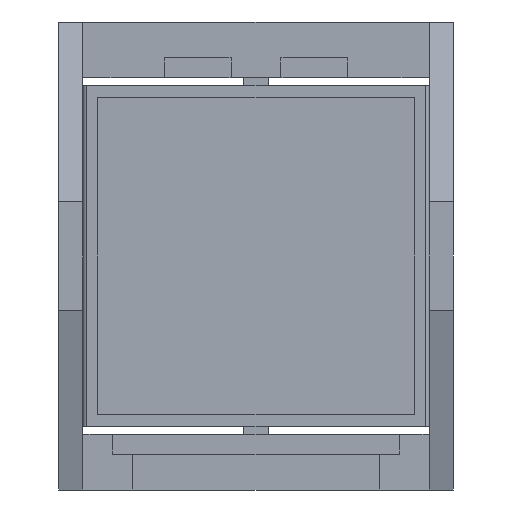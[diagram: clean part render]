
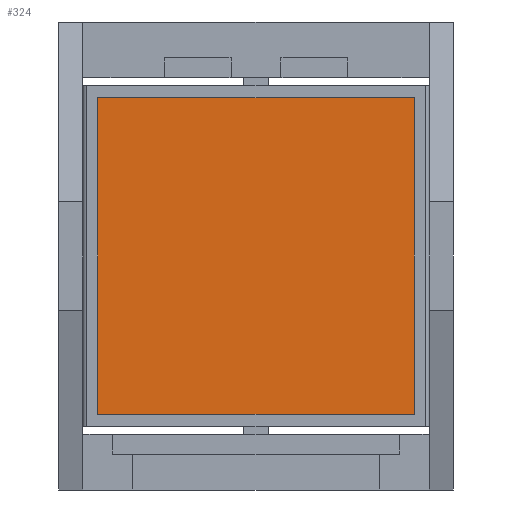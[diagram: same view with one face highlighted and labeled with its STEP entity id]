
A CAD part, front view. The second image highlights one B-rep face of the part: STEP entity #324.
In plain terms, the highlighted planar face has unit normal (0, -1, 0).
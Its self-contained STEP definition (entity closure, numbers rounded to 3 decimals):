
#22 = CARTESIAN_POINT ( 'NONE',  ( 12.524, -1.976, 9.179 ) ) ;
#196 = VERTEX_POINT ( 'NONE', #5498 ) ;
#324 = ADVANCED_FACE ( 'NONE', ( #2817 ), #2271, .F. ) ;
#430 = CARTESIAN_POINT ( 'NONE',  ( -6.476, -1.976, -9.821 ) ) ;
#572 = EDGE_CURVE ( 'NONE', #3564, #196, #5041, .T. ) ;
#685 = DIRECTION ( 'NONE',  ( 0., 0., 1. ) ) ;
#844 = EDGE_CURVE ( 'NONE', #1303, #2804, #4089, .T. ) ;
#1037 = DIRECTION ( 'NONE',  ( 0., 1., 0. ) ) ;
#1051 = VECTOR ( 'NONE', #2630, 1000. ) ;
#1147 = CARTESIAN_POINT ( 'NONE',  ( -6.476, -1.976, 9.179 ) ) ;
#1168 = VECTOR ( 'NONE', #685, 1000. ) ;
#1303 = VERTEX_POINT ( 'NONE', #5269 ) ;
#1680 = EDGE_CURVE ( 'NONE', #2804, #3564, #1731, .T. ) ;
#1716 = ORIENTED_EDGE ( 'NONE', *, *, #572, .F. ) ;
#1731 = LINE ( 'NONE', #1147, #1051 ) ;
#1799 = ORIENTED_EDGE ( 'NONE', *, *, #5404, .F. ) ;
#1957 = DIRECTION ( 'NONE',  ( 0., 0., -1. ) ) ;
#2199 = CARTESIAN_POINT ( 'NONE',  ( -6.476, -1.976, 9.179 ) ) ;
#2271 = PLANE ( 'NONE',  #2601 ) ;
#2460 = CARTESIAN_POINT ( 'NONE',  ( 12.524, -1.976, -9.821 ) ) ;
#2572 = ORIENTED_EDGE ( 'NONE', *, *, #844, .F. ) ;
#2601 = AXIS2_PLACEMENT_3D ( 'NONE', #3994, #1037, #4021 ) ;
#2626 = VECTOR ( 'NONE', #1957, 1000. ) ;
#2630 = DIRECTION ( 'NONE',  ( 1., 0., 0. ) ) ;
#2804 = VERTEX_POINT ( 'NONE', #2199 ) ;
#2817 = FACE_OUTER_BOUND ( 'NONE', #4452, .T. ) ;
#3228 = ORIENTED_EDGE ( 'NONE', *, *, #1680, .F. ) ;
#3564 = VERTEX_POINT ( 'NONE', #22 ) ;
#3994 = CARTESIAN_POINT ( 'NONE',  ( -6.476, -1.976, 9.179 ) ) ;
#4021 = DIRECTION ( 'NONE',  ( 0., 0., 1. ) ) ;
#4089 = LINE ( 'NONE', #4994, #1168 ) ;
#4283 = LINE ( 'NONE', #430, #4632 ) ;
#4452 = EDGE_LOOP ( 'NONE', ( #2572, #1799, #1716, #3228 ) ) ;
#4632 = VECTOR ( 'NONE', #5114, 1000. ) ;
#4994 = CARTESIAN_POINT ( 'NONE',  ( -6.476, -1.976, -9.821 ) ) ;
#5041 = LINE ( 'NONE', #2460, #2626 ) ;
#5114 = DIRECTION ( 'NONE',  ( -1., 0., 0. ) ) ;
#5269 = CARTESIAN_POINT ( 'NONE',  ( -6.476, -1.976, -9.821 ) ) ;
#5404 = EDGE_CURVE ( 'NONE', #196, #1303, #4283, .T. ) ;
#5498 = CARTESIAN_POINT ( 'NONE',  ( 12.524, -1.976, -9.821 ) ) ;
